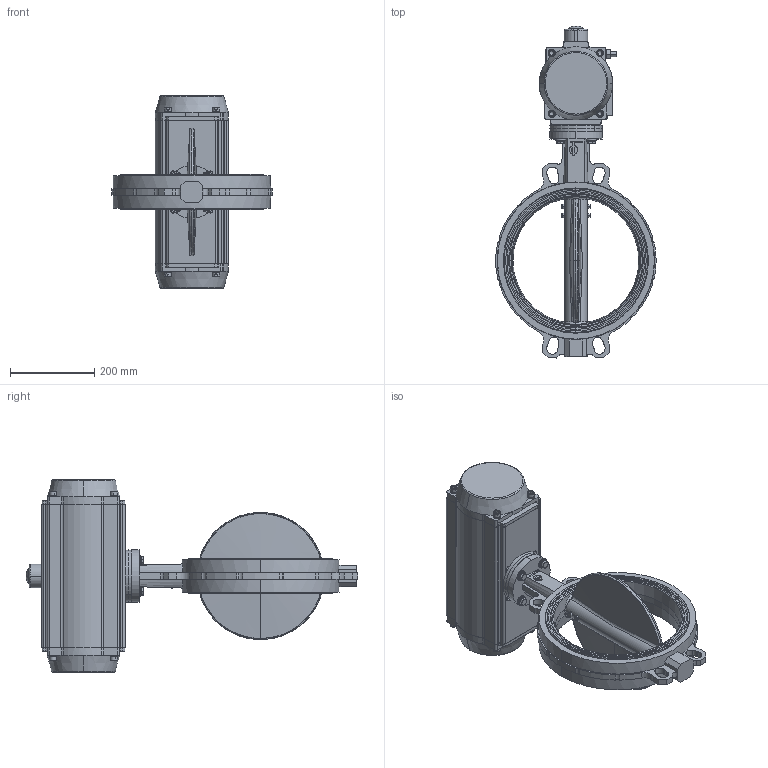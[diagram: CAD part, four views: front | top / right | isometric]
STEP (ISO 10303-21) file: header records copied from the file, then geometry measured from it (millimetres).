
FILE_DESCRIPTION (( 'STEP AP214' ), '1' );
FILE_NAME ('VPG444X-N03XX0300.step', '2022-06-27T15:43:34', ( '' ), ( '' ), 'SwSTEP 2.0', 'SolidWorks 2020', '' );
FILE_SCHEMA (( 'AUTOMOTIVE_DESIGN' ));
Length unit declared in the file: millimetre
Products named in the file (1): VPG444X-N03XX0300
Bounding box: 379.52 x 786.35 x 456 mm (x, y, z)
Surface area: 977322.7 mm2 (no closed solid volume)
Topology: 0 solids, 77 shells, 760 faces, 4298 edges, 3612 vertices
Faces by surface type: plane 295, cylinder 272, cone 101, bspline 88, torus 4
Entity records: 69020 total; most frequent: CARTESIAN_POINT 29681, ORIENTED_EDGE 5875, DIRECTION 5436, EDGE_CURVE 4294, VERTEX_POINT 3612, LINE 2172, VECTOR 2172, AXIS2_PLACEMENT_3D 1632
